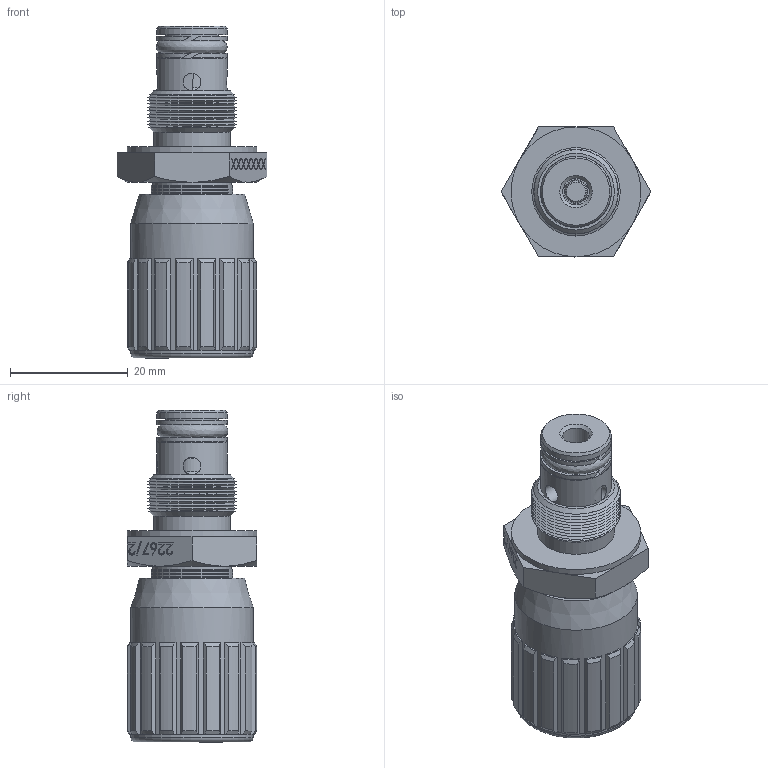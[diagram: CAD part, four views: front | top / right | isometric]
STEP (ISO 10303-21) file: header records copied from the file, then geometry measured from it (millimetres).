
FILE_DESCRIPTION (( 'STEP AP214' ), '1' );
FILE_NAME ('2267-2-18 VOLANTINO ALLUMINIO.STEP', '2025-10-30T14:41:42', ( '' ), ( '' ), 'SwSTEP 2.0', 'SolidWorks 2025', '' );
FILE_SCHEMA (( 'AUTOMOTIVE_DESIGN' ));
Length unit declared in the file: millimetre
Products named in the file (13): GRANO DI BLOCCAGGIO M4x5_Tipo18; DISCO FASCETTA 1237-2.004.00-18; ANELLO ANTI ESTRUSIONE 267-2.022.00-18; OR 108 VITON; CAPPUCCIO VOLANTINO 257-2.007.00-18_Tipo18; 2267-2-18 VOLANTINO ALLUMINIO; CORPO CARTUCCIA FILETTATA 2267-2.101.00-18; VOLANTINO DI MANOVRA 257-2.005.00-18_Tipo18; BK  2018; VITE A TESTA BOMBATA 2257-2.006.00-14; OR 2018; SPILLO DI REGOLAZIONE 2267-2.002.00-18; ANELLO DI FERMO 1251-2.003.00-14
Assembly tree (13 placements, depth 2):
  2267-2-18 VOLANTINO ALLUMINIO
    CORPO CARTUCCIA FILETTATA 2267-2.101.00-18
    OR 108 VITON
    SPILLO DI REGOLAZIONE 2267-2.002.00-18
    BK  2018
    OR 2018
    VOLANTINO DI MANOVRA 257-2.005.00-18_Tipo18
    GRANO DI BLOCCAGGIO M4x5_Tipo18
    ANELLO DI FERMO 1251-2.003.00-14
    ANELLO ANTI ESTRUSIONE 267-2.022.00-18  x2
    DISCO FASCETTA 1237-2.004.00-18
    VITE A TESTA BOMBATA 2257-2.006.00-14
    CAPPUCCIO VOLANTINO 257-2.007.00-18_Tipo18
Bounding box: 25.4 x 22 x 56.3 mm (x, y, z)
Volume: 12355.1 mm3; surface area: 12397.7 mm2
Topology: 13 solids, 13 shells, 940 faces, 2329 edges, 1499 vertices
Faces by surface type: plane 551, cone 203, cylinder 113, bspline 61, torus 11, sphere 1
Full cylindrical faces by diameter (mm): 2 x1, 2.5 x1, 3 x5, 4 x2, 4.3 x1, 4.5 x1, 5 x1, 5.5 x1, 5.8 x1, 6.5 x1, 7 x1, 7.5 x1, 8 x3, 8.5 x1, 9 x1, 9.1 x1, 11.8 x1, 12 x3, 12.1 x1, 13 x1, 13.3 x1, 13.4 x1, 13.88 x12, 13.9 x13, 20.7 x1, 20.8 x1, 22 x1
Entity records: 31056 total; most frequent: CARTESIAN_POINT 9870, ORIENTED_EDGE 4112, DIRECTION 4075, EDGE_CURVE 2056, VERTEX_POINT 1447, AXIS2_PLACEMENT_3D 1400, LINE 1275, VECTOR 1275
